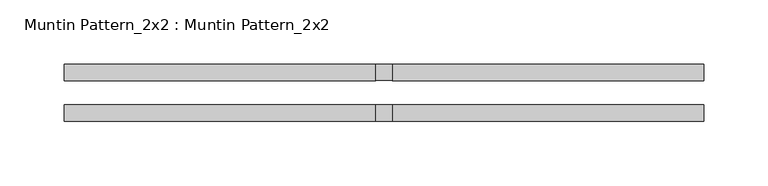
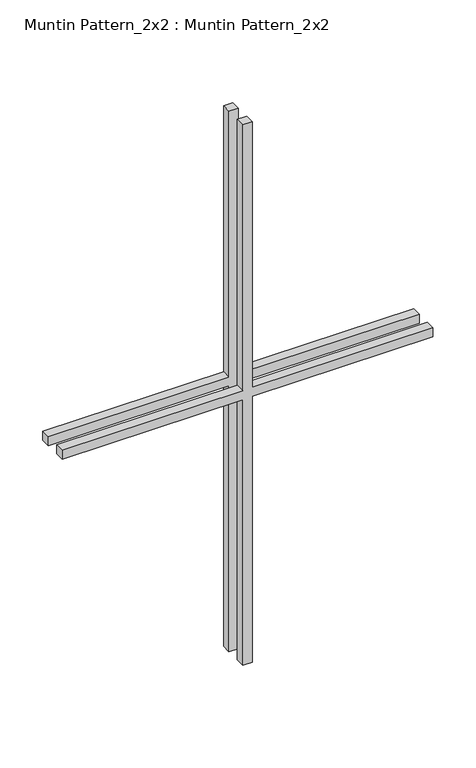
"""IFC4 building model written with IfcOpenShell, lengths in millimetres: proxy geometry, Muntin Pattern_2x2 : Muntin Pattern_2x2."""

from ifc_helpers import new_model, si_unit, frame, origin, place, context, project, spatial, polyline, outline, extrude, source, transform, mapped, element, save


def muntin_pattern_2x2_muntin_pattern_2x2_6bdc9780(model_context):
    return source(origin(), model_context, "Body", "SweptSolid", [
        extrude(outline(polyline([(390.525, -6.35), (390.525, -249.2375), (377.825, -249.2375), (377.825, -6.35), (0.0, -6.35), (0.0, 6.35), (377.825, 6.35), (377.825, 249.2375), (390.525, 249.2375), (390.525, 6.35), (768.35, 6.35), (768.35, -6.35), (390.525, -6.35)])), frame((0.0, 9.525, 0.0), z_axis=(0.0, 1.0, 0.0), x_axis=(0.0, 0.0, 1.0)), (0.0, 0.0, 1.0), 12.7),
        extrude(outline(polyline([(390.525, -6.35), (390.525, -249.2375), (377.825, -249.2375), (377.825, -6.35), (0.0, -6.35), (0.0, 6.35), (377.825, 6.35), (377.825, 249.2375), (390.525, 249.2375), (390.525, 6.35), (768.35, 6.35), (768.35, -6.35), (390.525, -6.35)])), frame((0.0, -22.225, 0.0), z_axis=(0.0, 1.0, 0.0), x_axis=(0.0, 0.0, 1.0)), (0.0, 0.0, 1.0), 12.7),
    ])


if __name__ == "__main__":
    model = new_model("IFC4")
    model_context = context("Model", 3, world=origin())
    ifc_project = project(units=[si_unit("LENGTHUNIT", "METRE", prefix="MILLI")], contexts=[model_context])
    site = spatial("IfcSite", under=ifc_project)
    building = spatial("IfcBuilding", under=site)
    placement = place(None, origin())
    muntin_pattern_2x2_muntin_pattern_2x2_shape = muntin_pattern_2x2_muntin_pattern_2x2_6bdc9780(model_context)
    element("IfcBuildingElementProxy", 1, Name="Muntin Pattern_2x2 : Muntin Pattern_2x2", ObjectType="Muntin Pattern_2x2 : Muntin Pattern_2x2", at=placement, inside=building, context=model_context, shape_type="MappedRepresentation", body=[
        mapped(muntin_pattern_2x2_muntin_pattern_2x2_shape, transform((0.0, 0.0, 0.0), x_axis=(1.0, 0.0, 0.0), y_axis=(0.0, 1.0, 0.0), z_axis=(0.0, 0.0, 1.0))),
    ])
    save(model, "model.ifc")
